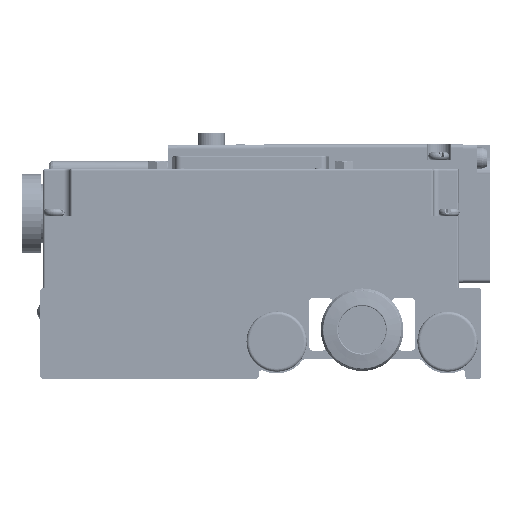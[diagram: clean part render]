
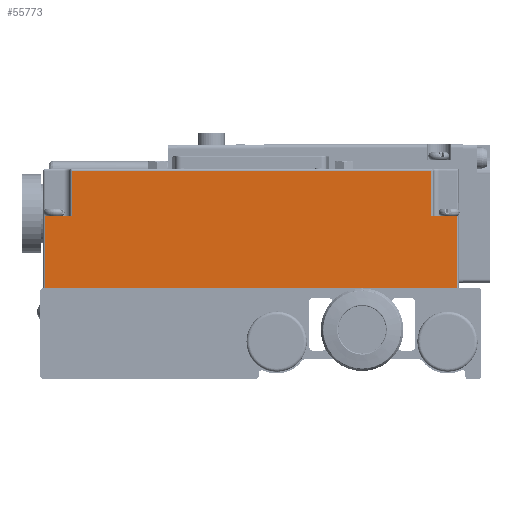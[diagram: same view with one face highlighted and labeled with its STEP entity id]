
A CAD part, front view. The second image highlights one B-rep face of the part: STEP entity #55773.
In plain terms, the highlighted planar face has unit normal (0, -1, 0).
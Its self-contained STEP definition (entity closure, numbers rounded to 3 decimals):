
#1124 = VECTOR ( 'NONE', #13459, 1000. ) ;
#1562 = EDGE_CURVE ( 'NONE', #69144, #46852, #46472, .T. ) ;
#4288 = DIRECTION ( 'NONE',  ( 0., -1., 0. ) ) ;
#4320 = CARTESIAN_POINT ( 'NONE',  ( -107.1, 15.005, 44. ) ) ;
#6422 = VERTEX_POINT ( 'NONE', #50069 ) ;
#11393 = VERTEX_POINT ( 'NONE', #56439 ) ;
#11561 = DIRECTION ( 'NONE',  ( 0., 0., -1. ) ) ;
#12149 = VECTOR ( 'NONE', #19881, 1000. ) ;
#13459 = DIRECTION ( 'NONE',  ( -1., 0., 0. ) ) ;
#15317 = DIRECTION ( 'NONE',  ( 1., 0., 0. ) ) ;
#18482 = EDGE_CURVE ( 'NONE', #27232, #6422, #25400, .T. ) ;
#19881 = DIRECTION ( 'NONE',  ( -1., 0., 0. ) ) ;
#22793 = LINE ( 'NONE', #103732, #1124 ) ;
#23181 = CARTESIAN_POINT ( 'NONE',  ( 0.3, 15.005, 44. ) ) ;
#25400 = LINE ( 'NONE', #95277, #69535 ) ;
#25537 = CARTESIAN_POINT ( 'NONE',  ( -105.4, 15.005, 56. ) ) ;
#27232 = VERTEX_POINT ( 'NONE', #79204 ) ;
#28535 = EDGE_CURVE ( 'NONE', #69144, #45208, #108862, .T. ) ;
#29085 = DIRECTION ( 'NONE',  ( -1., 0., 0. ) ) ;
#30121 = EDGE_LOOP ( 'NONE', ( #86613, #56153, #42720, #43426, #110270, #46630, #95138, #83025 ) ) ;
#32450 = CARTESIAN_POINT ( 'NONE',  ( -98.59, 15.005, 44. ) ) ;
#33193 = DIRECTION ( 'NONE',  ( -1., 0., 0. ) ) ;
#36290 = CARTESIAN_POINT ( 'NONE',  ( -1.81, 15.005, 26. ) ) ;
#42720 = ORIENTED_EDGE ( 'NONE', *, *, #84264, .T. ) ;
#43426 = ORIENTED_EDGE ( 'NONE', *, *, #18482, .T. ) ;
#44784 = AXIS2_PLACEMENT_3D ( 'NONE', #78049, #4288, #33193 ) ;
#45026 = VECTOR ( 'NONE', #63948, 1000. ) ;
#45208 = VERTEX_POINT ( 'NONE', #91888 ) ;
#45327 = CARTESIAN_POINT ( 'NONE',  ( -1.81, 15.005, 56. ) ) ;
#45597 = VECTOR ( 'NONE', #15317, 1000. ) ;
#46472 = LINE ( 'NONE', #45327, #45026 ) ;
#46630 = ORIENTED_EDGE ( 'NONE', *, *, #100007, .T. ) ;
#46852 = VERTEX_POINT ( 'NONE', #105690 ) ;
#50069 = CARTESIAN_POINT ( 'NONE',  ( -8.21, 15.005, 55.5 ) ) ;
#53953 = VECTOR ( 'NONE', #11561, 1000. ) ;
#55773 = ADVANCED_FACE ( 'NONE', ( #109679 ), #56676, .T. ) ;
#55804 = CARTESIAN_POINT ( 'NONE',  ( -98.59, 15.005, 44. ) ) ;
#56153 = ORIENTED_EDGE ( 'NONE', *, *, #1562, .T. ) ;
#56439 = CARTESIAN_POINT ( 'NONE',  ( -98.59, 15.005, 55.5 ) ) ;
#56676 = PLANE ( 'NONE',  #44784 ) ;
#56954 = LINE ( 'NONE', #55804, #53953 ) ;
#59976 = CARTESIAN_POINT ( 'NONE',  ( -105.4, 15.005, 44. ) ) ;
#60897 = DIRECTION ( 'NONE',  ( 0., 0., 1. ) ) ;
#62866 = CARTESIAN_POINT ( 'NONE',  ( -1.31, 15.005, 26. ) ) ;
#63948 = DIRECTION ( 'NONE',  ( 0., 0., 1. ) ) ;
#69144 = VERTEX_POINT ( 'NONE', #36290 ) ;
#69535 = VECTOR ( 'NONE', #60897, 1000. ) ;
#78049 = CARTESIAN_POINT ( 'NONE',  ( -1.31, 15.005, 56. ) ) ;
#79204 = CARTESIAN_POINT ( 'NONE',  ( -8.21, 15.005, 44. ) ) ;
#79645 = DIRECTION ( 'NONE',  ( 0., 0., -1. ) ) ;
#83025 = ORIENTED_EDGE ( 'NONE', *, *, #106144, .T. ) ;
#83340 = VECTOR ( 'NONE', #79645, 1000. ) ;
#84264 = EDGE_CURVE ( 'NONE', #46852, #27232, #86056, .T. ) ;
#86056 = LINE ( 'NONE', #23181, #12149 ) ;
#86613 = ORIENTED_EDGE ( 'NONE', *, *, #28535, .F. ) ;
#91888 = CARTESIAN_POINT ( 'NONE',  ( -105.4, 15.005, 26. ) ) ;
#94015 = EDGE_CURVE ( 'NONE', #6422, #11393, #22793, .T. ) ;
#94529 = LINE ( 'NONE', #4320, #45597 ) ;
#95138 = ORIENTED_EDGE ( 'NONE', *, *, #103255, .F. ) ;
#95277 = CARTESIAN_POINT ( 'NONE',  ( -8.21, 15.005, 56. ) ) ;
#97700 = LINE ( 'NONE', #25537, #83340 ) ;
#100007 = EDGE_CURVE ( 'NONE', #11393, #112039, #56954, .T. ) ;
#103255 = EDGE_CURVE ( 'NONE', #112814, #112039, #94529, .T. ) ;
#103732 = CARTESIAN_POINT ( 'NONE',  ( -99.09, 15.005, 55.5 ) ) ;
#105690 = CARTESIAN_POINT ( 'NONE',  ( -1.81, 15.005, 44. ) ) ;
#106144 = EDGE_CURVE ( 'NONE', #112814, #45208, #97700, .T. ) ;
#108862 = LINE ( 'NONE', #62866, #114359 ) ;
#109679 = FACE_OUTER_BOUND ( 'NONE', #30121, .T. ) ;
#110270 = ORIENTED_EDGE ( 'NONE', *, *, #94015, .T. ) ;
#112039 = VERTEX_POINT ( 'NONE', #32450 ) ;
#112814 = VERTEX_POINT ( 'NONE', #59976 ) ;
#114359 = VECTOR ( 'NONE', #29085, 1000. ) ;
